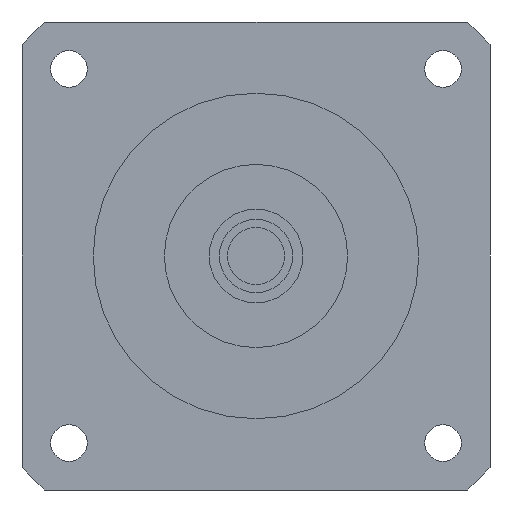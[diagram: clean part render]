
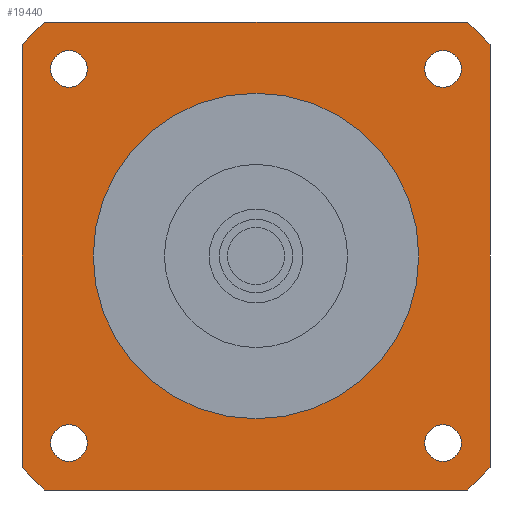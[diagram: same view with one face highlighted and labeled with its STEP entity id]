
A CAD part, left-side view. The second image highlights one B-rep face of the part: STEP entity #19440.
In plain terms, the highlighted planar face has unit normal (-1, 0, 0) as drawn and (0, 0, -1) by its records, which use the part's own axes.
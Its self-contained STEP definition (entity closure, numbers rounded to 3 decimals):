
#13850=CARTESIAN_POINT('',(-51.962,57.5,-43.));
#13860=VERTEX_POINT('',#13850);
#14020=CARTESIAN_POINT('',(-57.5,51.962,-43.));
#14030=VERTEX_POINT('',#14020);
#14060=CARTESIAN_POINT('',(0.,0.,
-43.));
#14070=DIRECTION('',(0.,0.,-1.));
#14080=DIRECTION('',(-1.,0.,0.));
#14090=AXIS2_PLACEMENT_3D('',#14060,#14070,#14080);
#14100=CIRCLE('',#14090,77.5);
#14110=EDGE_CURVE('',#14030,#13860,#14100,.T.);
#17910=CARTESIAN_POINT('',(50.462,-45.962,-43.));
#17920=VERTEX_POINT('',#17910);
#17950=CARTESIAN_POINT('',(45.962,-45.962,-43.));
#17960=DIRECTION('',(0.,0.,-1.));
#17970=DIRECTION('',(1.,0.,0.));
#17980=AXIS2_PLACEMENT_3D('',#17950,#17960,#17970);
#17990=CIRCLE('',#17980,4.5);
#18000=CARTESIAN_POINT('',(41.462,-45.962,-43.));
#18010=VERTEX_POINT('',#18000);
#18020=EDGE_CURVE('',#18010,#17920,#17990,.T.);
#18140=CARTESIAN_POINT('',(0.,0.,
-43.));
#18150=DIRECTION('',(0.,0.,-1.));
#18160=DIRECTION('',(1.,0.,0.));
#18170=AXIS2_PLACEMENT_3D('',#18140,#18150,#18160);
#18180=PLANE('',#18170);
#18190=CARTESIAN_POINT('',(45.962,45.962,-43.));
#18200=DIRECTION('',(0.,0.,-1.));
#18210=DIRECTION('',(1.,0.,0.));
#18220=AXIS2_PLACEMENT_3D('',#18190,#18200,#18210);
#18230=CIRCLE('',#18220,4.5);
#18240=CARTESIAN_POINT('',(50.462,45.962,-43.));
#18250=VERTEX_POINT('',#18240);
#18260=CARTESIAN_POINT('',(41.462,45.962,-43.));
#18270=VERTEX_POINT('',#18260);
#18280=EDGE_CURVE('',#18250,#18270,#18230,.T.);
#18290=ORIENTED_EDGE('',*,*,#18280,.F.);
#18300=EDGE_CURVE('',#18270,#18250,#18230,.T.);
#18310=ORIENTED_EDGE('',*,*,#18300,.F.);
#18320=EDGE_LOOP('',(#18310,#18290));
#18330=FACE_BOUND('',#18320,.T.);
#18340=CARTESIAN_POINT('',(-45.962,45.962,-43.));
#18350=DIRECTION('',(0.,0.,-1.));
#18360=DIRECTION('',(1.,0.,0.));
#18370=AXIS2_PLACEMENT_3D('',#18340,#18350,#18360);
#18380=CIRCLE('',#18370,4.5);
#18390=CARTESIAN_POINT('',(-41.462,45.962,-43.));
#18400=VERTEX_POINT('',#18390);
#18410=CARTESIAN_POINT('',(-50.462,45.962,-43.));
#18420=VERTEX_POINT('',#18410);
#18430=EDGE_CURVE('',#18400,#18420,#18380,.T.);
#18440=ORIENTED_EDGE('',*,*,#18430,.F.);
#18450=EDGE_CURVE('',#18420,#18400,#18380,.T.);
#18460=ORIENTED_EDGE('',*,*,#18450,.F.);
#18470=EDGE_LOOP('',(#18460,#18440));
#18480=FACE_BOUND('',#18470,.T.);
#18490=CARTESIAN_POINT('',(0.,0.,
-43.));
#18500=DIRECTION('',(0.,0.,1.));
#18510=DIRECTION('',(1.,0.,0.));
#18520=AXIS2_PLACEMENT_3D('',#18490,#18500,#18510);
#18530=CIRCLE('',#18520,40.);
#18540=CARTESIAN_POINT('',(40.,0.,-43.));
#18550=VERTEX_POINT('',#18540);
#18560=CARTESIAN_POINT('',(-40.,0.,-43.));
#18570=VERTEX_POINT('',#18560);
#18580=EDGE_CURVE('',#18550,#18570,#18530,.T.);
#18590=ORIENTED_EDGE('',*,*,#18580,.T.);
#18600=EDGE_CURVE('',#18570,#18550,#18530,.T.);
#18610=ORIENTED_EDGE('',*,*,#18600,.T.);
#18620=EDGE_LOOP('',(#18610,#18590));
#18630=FACE_BOUND('',#18620,.T.);
#18640=CARTESIAN_POINT('',(-45.962,-45.962,-43.));
#18650=DIRECTION('',(0.,0.,-1.));
#18660=DIRECTION('',(1.,0.,0.));
#18670=AXIS2_PLACEMENT_3D('',#18640,#18650,#18660);
#18680=CIRCLE('',#18670,4.5);
#18690=CARTESIAN_POINT('',(-41.462,-45.962,-43.));
#18700=VERTEX_POINT('',#18690);
#18710=CARTESIAN_POINT('',(-50.462,-45.962,-43.));
#18720=VERTEX_POINT('',#18710);
#18730=EDGE_CURVE('',#18700,#18720,#18680,.T.);
#18740=ORIENTED_EDGE('',*,*,#18730,.F.);
#18750=EDGE_CURVE('',#18720,#18700,#18680,.T.);
#18760=ORIENTED_EDGE('',*,*,#18750,.F.);
#18770=EDGE_LOOP('',(#18760,#18740));
#18780=FACE_BOUND('',#18770,.T.);
#18790=EDGE_CURVE('',#17920,#18010,#17990,.T.);
#18800=ORIENTED_EDGE('',*,*,#18790,.F.);
#18810=ORIENTED_EDGE('',*,*,#18020,.F.);
#18820=EDGE_LOOP('',(#18810,#18800));
#18830=FACE_BOUND('',#18820,.T.);
#18840=CARTESIAN_POINT('',(57.5,-57.5,-43.));
#18850=DIRECTION('',(-1.,0.,0.));
#18860=VECTOR('',#18850,1000.);
#18870=LINE('',#18840,#18860);
#18880=CARTESIAN_POINT('',(51.962,-57.5,-43.));
#18890=VERTEX_POINT('',#18880);
#18900=CARTESIAN_POINT('',(-51.962,-57.5,-43.));
#18910=VERTEX_POINT('',#18900);
#18920=EDGE_CURVE('',#18890,#18910,#18870,.T.);
#18930=ORIENTED_EDGE('',*,*,#18920,.T.);
#18940=CARTESIAN_POINT('',(0.,0.,
-43.));
#18950=DIRECTION('',(0.,0.,-1.));
#18960=DIRECTION('',(-1.,0.,0.));
#18970=AXIS2_PLACEMENT_3D('',#18940,#18950,#18960);
#18980=CIRCLE('',#18970,77.5);
#18990=CARTESIAN_POINT('',(57.5,-51.962,-43.));
#19000=VERTEX_POINT('',#18990);
#19010=EDGE_CURVE('',#19000,#18890,#18980,.T.);
#19020=ORIENTED_EDGE('',*,*,#19010,.T.);
#19030=CARTESIAN_POINT('',(57.5,57.5,-43.));
#19040=DIRECTION('',(0.,-1.,0.));
#19050=VECTOR('',#19040,1000.);
#19060=LINE('',#19030,#19050);
#19070=CARTESIAN_POINT('',(57.5,51.962,-43.));
#19080=VERTEX_POINT('',#19070);
#19090=EDGE_CURVE('',#19080,#19000,#19060,.T.);
#19100=ORIENTED_EDGE('',*,*,#19090,.T.);
#19110=CARTESIAN_POINT('',(0.,0.,
-43.));
#19120=DIRECTION('',(0.,0.,-1.));
#19130=DIRECTION('',(-1.,0.,0.));
#19140=AXIS2_PLACEMENT_3D('',#19110,#19120,#19130);
#19150=CIRCLE('',#19140,77.5);
#19160=CARTESIAN_POINT('',(51.962,57.5,-43.));
#19170=VERTEX_POINT('',#19160);
#19180=EDGE_CURVE('',#19170,#19080,#19150,.T.);
#19190=ORIENTED_EDGE('',*,*,#19180,.T.);
#19200=CARTESIAN_POINT('',(-57.5,57.5,-43.));
#19210=DIRECTION('',(1.,0.,0.));
#19220=VECTOR('',#19210,1000.);
#19230=LINE('',#19200,#19220);
#19240=EDGE_CURVE('',#13860,#19170,#19230,.T.);
#19250=ORIENTED_EDGE('',*,*,#19240,.T.);
#19260=ORIENTED_EDGE('',*,*,#14110,.T.);
#19270=CARTESIAN_POINT('',(-57.5,-57.5,-43.));
#19280=DIRECTION('',(0.,1.,0.));
#19290=VECTOR('',#19280,1000.);
#19300=LINE('',#19270,#19290);
#19310=CARTESIAN_POINT('',(-57.5,-51.962,-43.));
#19320=VERTEX_POINT('',#19310);
#19330=EDGE_CURVE('',#19320,#14030,#19300,.T.);
#19340=ORIENTED_EDGE('',*,*,#19330,.T.);
#19350=CARTESIAN_POINT('',(0.,0.,
-43.));
#19360=DIRECTION('',(0.,0.,-1.));
#19370=DIRECTION('',(-1.,0.,0.));
#19380=AXIS2_PLACEMENT_3D('',#19350,#19360,#19370);
#19390=CIRCLE('',#19380,77.5);
#19400=EDGE_CURVE('',#18910,#19320,#19390,.T.);
#19410=ORIENTED_EDGE('',*,*,#19400,.T.);
#19420=EDGE_LOOP('',(#19410,#19340,#19260,#19250,#19190,#19100,#19020,
#18930));
#19430=FACE_OUTER_BOUND('',#19420,.T.);
#19440=ADVANCED_FACE('',(#18330,#18480,#18630,#18780,#18830,#19430),
#18180,.T.);
